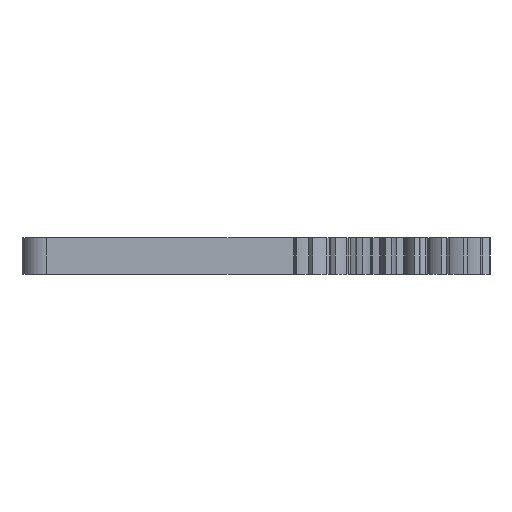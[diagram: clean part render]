
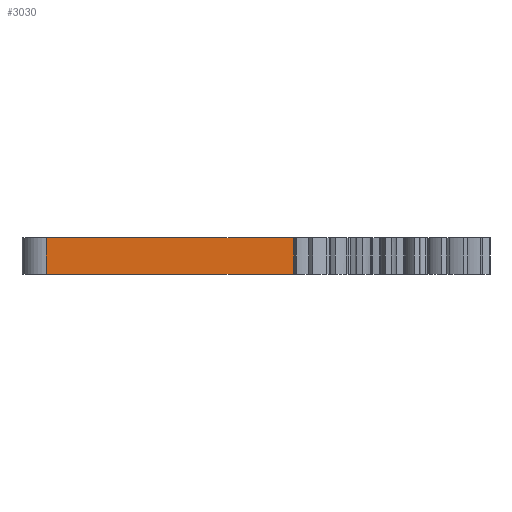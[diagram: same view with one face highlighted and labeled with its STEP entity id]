
A CAD part, left-side view. The second image highlights one B-rep face of the part: STEP entity #3030.
In plain terms, the highlighted planar face has unit normal (-1, 0, 0).
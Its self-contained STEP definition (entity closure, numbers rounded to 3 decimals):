
#143=B_SPLINE_CURVE_WITH_KNOTS('',3,(#4330,#4331,#4332,#4333,#4334,#4335),
 .UNSPECIFIED.,.F.,.F.,(4,2,4),(-0.3,-0.15,0.),.UNSPECIFIED.);
#145=PLANE('',#3211);
#189=FACE_OUTER_BOUND('',#353,.T.);
#353=EDGE_LOOP('',(#1980,#1981,#1982,#1983));
#520=LINE('',#4322,#762);
#522=LINE('',#4328,#764);
#523=LINE('',#4336,#765);
#762=VECTOR('',#3503,10.);
#764=VECTOR('',#3509,10.);
#765=VECTOR('',#3510,10.);
#1167=VERTEX_POINT('',#4319);
#1168=VERTEX_POINT('',#4321);
#1170=VERTEX_POINT('',#4327);
#1171=VERTEX_POINT('',#4329);
#1491=EDGE_CURVE('',#1167,#1168,#520,.T.);
#1494=EDGE_CURVE('',#1170,#1167,#522,.T.);
#1495=EDGE_CURVE('',#1171,#1170,#143,.T.);
#1496=EDGE_CURVE('',#1168,#1171,#523,.T.);
#1980=ORIENTED_EDGE('',*,*,#1491,.F.);
#1981=ORIENTED_EDGE('',*,*,#1494,.F.);
#1982=ORIENTED_EDGE('',*,*,#1495,.F.);
#1983=ORIENTED_EDGE('',*,*,#1496,.F.);
#3030=ADVANCED_FACE('',(#189),#145,.T.);
#3211=AXIS2_PLACEMENT_3D('',#4326,#3507,#3508);
#3503=DIRECTION('',(0.,0.,1.));
#3507=DIRECTION('center_axis',(-1.,0.,0.));
#3508=DIRECTION('ref_axis',(0.,1.,0.));
#3509=DIRECTION('',(0.,1.,0.));
#3510=DIRECTION('',(0.,-1.,0.));
#4319=CARTESIAN_POINT('',(-2.5,28.,0.));
#4321=CARTESIAN_POINT('',(-2.5,28.,3.));
#4322=CARTESIAN_POINT('',(-2.5,28.,3.));
#4326=CARTESIAN_POINT('Origin',(-2.5,6.956,3.));
#4327=CARTESIAN_POINT('',(-2.5,6.956,0.));
#4328=CARTESIAN_POINT('',(-2.5,30.,0.));
#4329=CARTESIAN_POINT('',(-2.5,6.956,3.));
#4330=CARTESIAN_POINT('Ctrl Pts',(-2.5,6.956,3.));
#4331=CARTESIAN_POINT('Ctrl Pts',(-2.5,6.956,2.5));
#4332=CARTESIAN_POINT('Ctrl Pts',(-2.5,6.956,2.));
#4333=CARTESIAN_POINT('Ctrl Pts',(-2.5,6.956,1.));
#4334=CARTESIAN_POINT('Ctrl Pts',(-2.5,6.956,0.5));
#4335=CARTESIAN_POINT('Ctrl Pts',(-2.5,6.956,0.));
#4336=CARTESIAN_POINT('',(-2.5,30.,3.));
